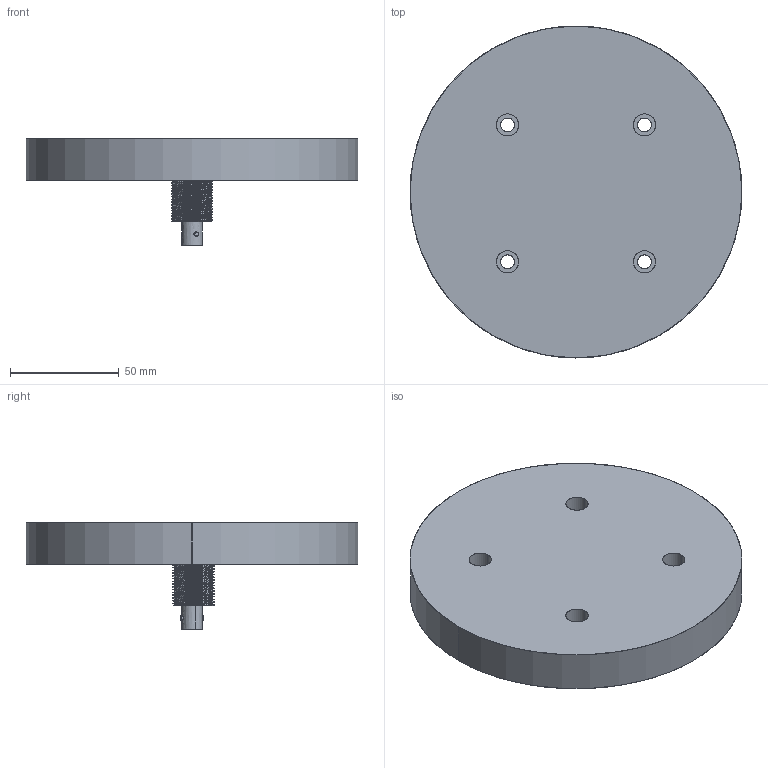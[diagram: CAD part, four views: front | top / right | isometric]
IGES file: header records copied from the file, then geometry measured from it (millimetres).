
Start section: SolidWorks IGES file using analytic representation for surfaces
Global section: file name: C:\Documents and Settings\Administrator\My Documents\EDI\3D\finished sensors\60U1.IGS; native system: SolidWorks 2008; preprocessor: SolidWorks 2008; author: Administrator; date: 100305.114107; units: millimetre
Bounding box: 152.4 x 152.4 x 48.87 mm (x, y, z)
Surface area: 50763.7 mm2 (no closed solid volume)
Topology: 0 solids, 0 shells, 107 faces, 2298 edges, 2298 vertices
Faces by surface type: revolution 72, bspline 35
